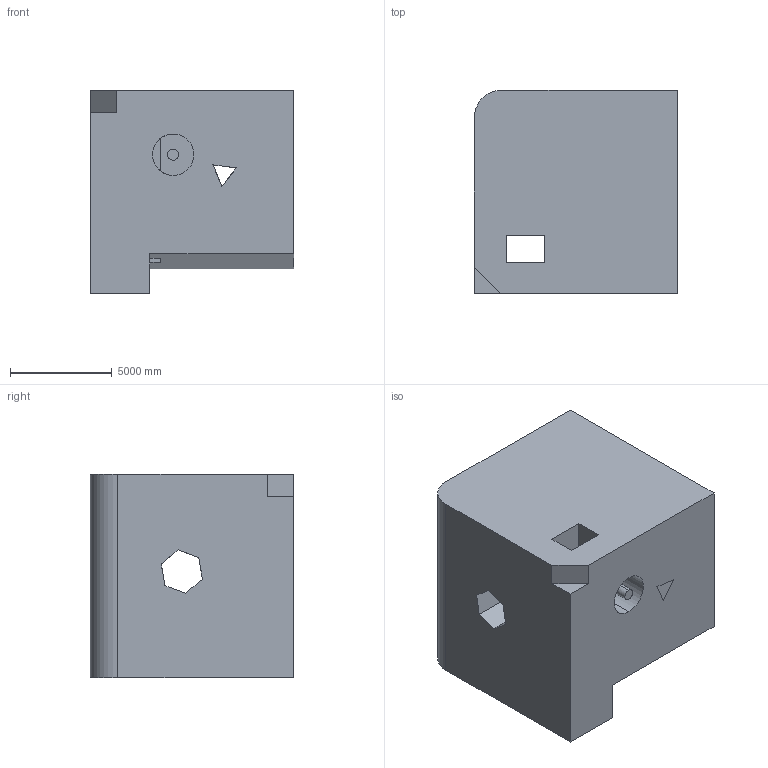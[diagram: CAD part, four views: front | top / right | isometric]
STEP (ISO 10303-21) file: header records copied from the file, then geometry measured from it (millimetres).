
FILE_DESCRIPTION (( 'STEP AP203' ), '1' );
FILE_NAME ('1787.STEP', '2022-08-19T12:53:11', ( 'user' ), ( '' ), 'SwSTEP 2.0', 'SolidWorks 2021', '' );
FILE_SCHEMA (( 'CONFIG_CONTROL_DESIGN' ));
Length unit declared in the file: centimetre
Products named in the file (1): 1787
Bounding box: 10000 x 10000 x 10000 mm (x, y, z)
Volume: 797926485067.5 mm3; surface area: 771094023.3 mm2
Topology: 1 solids, 1 shells, 41 faces, 120 edges, 80 vertices
Faces by surface type: plane 32, cylinder 9
Entity records: 1451 total; most frequent: CARTESIAN_POINT 242, ORIENTED_EDGE 240, DIRECTION 224, EDGE_CURVE 120, VECTOR 100, LINE 100, VERTEX_POINT 80, AXIS2_PLACEMENT_3D 62
